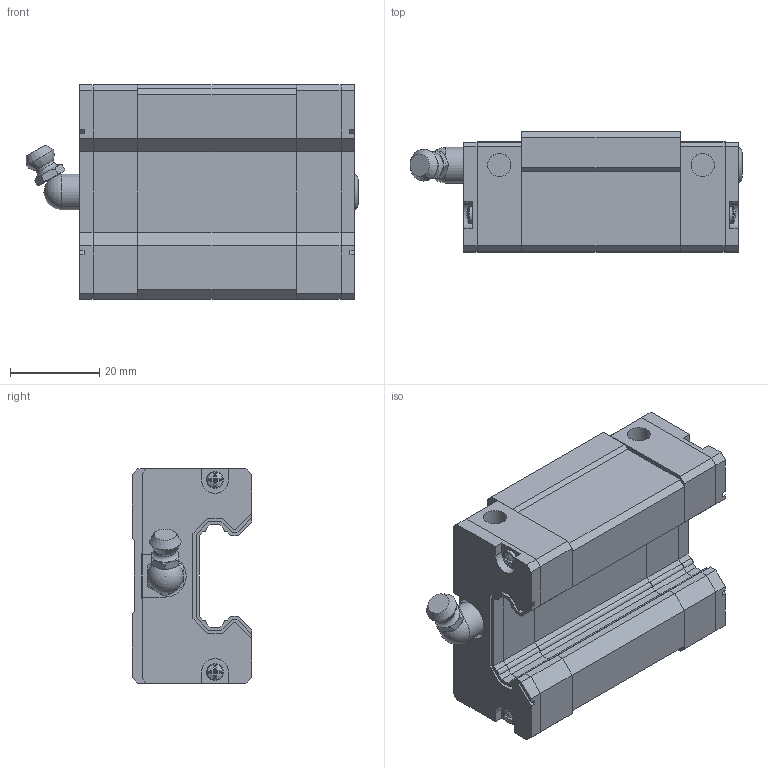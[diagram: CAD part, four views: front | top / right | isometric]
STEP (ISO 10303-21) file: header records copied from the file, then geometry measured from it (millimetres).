
FILE_DESCRIPTION(('FreeCAD Model'),'2;1');
FILE_NAME('Open CASCADE Shape Model','2024-12-05T11:32:04',('Author'),( ''),'Open CASCADE STEP processor 7.6','FreeCAD','Unknown');
FILE_SCHEMA(('AUTOMOTIVE_DESIGN { 1 0 10303 214 1 1 1 1 }'));
Length unit declared in the file: millimetre
Products named in the file (7): EH25SA; GEH25SA_slider; GES25_C; GES25_P; GH25_SCREW; GH25_BOLT; GH25-_G
Assembly tree (11 placements, depth 2):
  EH25SA
    GEH25SA_slider
    GES25_C  x2
    GES25_P  x2
    GH25_SCREW  x4
    GH25_BOLT
    GH25-_G
Bounding box: 74.3 x 26.8 x 48 mm (x, y, z)
Volume: 59416.7 mm3; surface area: 22150.7 mm2
Topology: 11 solids, 11 shells, 379 faces, 1005 edges, 660 vertices
Faces by surface type: plane 300, cylinder 49, cone 18, torus 6, sphere 5, bspline 1
Full cylindrical faces by diameter (mm): 2.2 x4, 3.725 x4, 4.5 x1, 4.917 x2, 5.2 x4, 6 x2, 6.5 x2, 7.4 x2, 8 x1, 8.2 x1
Entity records: 6976 total; most frequent: CARTESIAN_POINT 1369, ORIENTED_EDGE 1138, DIRECTION 1066, EDGE_CURVE 569, LINE 420, VECTOR 420, VERTEX_POINT 372, AXIS2_PLACEMENT_3D 323
